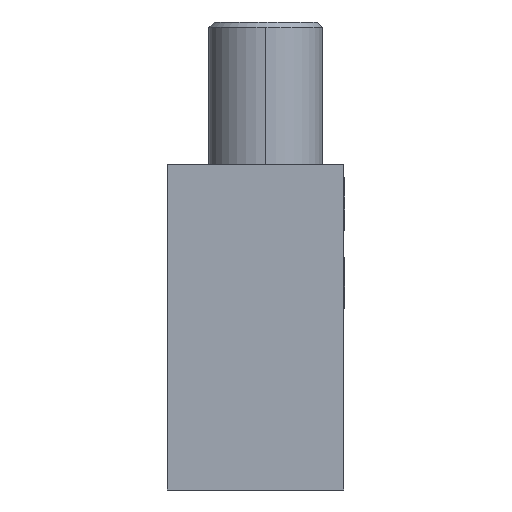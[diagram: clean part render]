
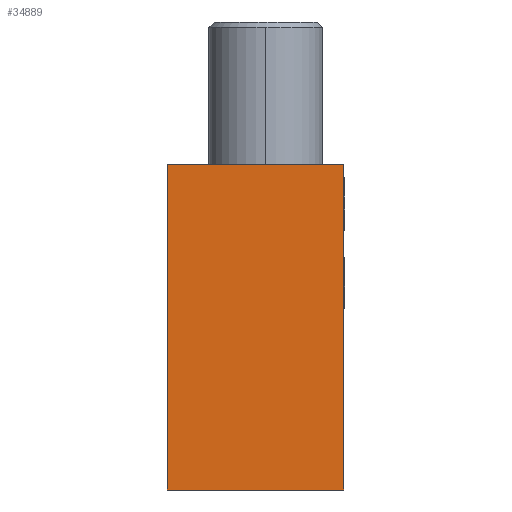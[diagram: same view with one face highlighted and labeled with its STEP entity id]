
A CAD part, left-side view. The second image highlights one B-rep face of the part: STEP entity #34889.
In plain terms, the highlighted planar face has unit normal (-1, 0, 0).
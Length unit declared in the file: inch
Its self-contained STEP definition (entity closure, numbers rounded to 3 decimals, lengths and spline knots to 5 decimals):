
#3383 = EDGE_CURVE ( 'NONE', #50074, #32662, #12827, .T. ) ;
#5628 = VERTEX_POINT ( 'NONE', #50935 ) ;
#6046 = DIRECTION ( 'NONE',  ( -1., 0., 0. ) ) ;
#6099 = DIRECTION ( 'NONE',  ( 0., -1., 0. ) ) ;
#6985 = ORIENTED_EDGE ( 'NONE', *, *, #26107, .T. ) ;
#7084 = ORIENTED_EDGE ( 'NONE', *, *, #29799, .F. ) ;
#7110 = VECTOR ( 'NONE', #25134, 39.37008 ) ;
#12827 = LINE ( 'NONE', #21377, #7110 ) ;
#15489 = VECTOR ( 'NONE', #6099, 39.37008 ) ;
#20315 = EDGE_LOOP ( 'NONE', ( #6985, #39926, #7084, #39316 ) ) ;
#21377 = CARTESIAN_POINT ( 'NONE',  ( -0.975, 0.0525, 0.015 ) ) ;
#22458 = DIRECTION ( 'NONE',  ( 0., 0., -1. ) ) ;
#23497 = FACE_OUTER_BOUND ( 'NONE', #20315, .T. ) ;
#23751 = AXIS2_PLACEMENT_3D ( 'NONE', #30509, #6046, #22458 ) ;
#25134 = DIRECTION ( 'NONE',  ( 0., 1., 0. ) ) ;
#25180 = CARTESIAN_POINT ( 'NONE',  ( -0.975, 0.0675, -0.225 ) ) ;
#26107 = EDGE_CURVE ( 'NONE', #5628, #50074, #48521, .T. ) ;
#27655 = VECTOR ( 'NONE', #39897, 39.37008 ) ;
#29799 = EDGE_CURVE ( 'NONE', #51983, #32662, #33280, .T. ) ;
#29842 = EDGE_CURVE ( 'NONE', #51983, #5628, #34321, .T. ) ;
#30509 = CARTESIAN_POINT ( 'NONE',  ( -0.975, 0.0525, -0.1 ) ) ;
#32288 = CARTESIAN_POINT ( 'NONE',  ( -0.975, 0.0675, 0.015 ) ) ;
#32662 = VERTEX_POINT ( 'NONE', #32288 ) ;
#33280 = LINE ( 'NONE', #25180, #48122 ) ;
#34159 = CARTESIAN_POINT ( 'NONE',  ( -0.975, -0.0625, 0.015 ) ) ;
#34321 = LINE ( 'NONE', #41860, #15489 ) ;
#34889 = ADVANCED_FACE ( 'NONE', ( #23497 ), #42861, .T. ) ;
#39316 = ORIENTED_EDGE ( 'NONE', *, *, #29842, .T. ) ;
#39897 = DIRECTION ( 'NONE',  ( 0., 0., 1. ) ) ;
#39926 = ORIENTED_EDGE ( 'NONE', *, *, #3383, .T. ) ;
#40178 = CARTESIAN_POINT ( 'NONE',  ( -0.975, -0.0625, -0.1 ) ) ;
#41616 = DIRECTION ( 'NONE',  ( 0., 0., 1. ) ) ;
#41860 = CARTESIAN_POINT ( 'NONE',  ( -0.975, -0.0625, -0.225 ) ) ;
#42214 = CARTESIAN_POINT ( 'NONE',  ( -0.975, 0.0675, -0.225 ) ) ;
#42861 = PLANE ( 'NONE',  #23751 ) ;
#48122 = VECTOR ( 'NONE', #41616, 39.37008 ) ;
#48521 = LINE ( 'NONE', #40178, #27655 ) ;
#50074 = VERTEX_POINT ( 'NONE', #34159 ) ;
#50935 = CARTESIAN_POINT ( 'NONE',  ( -0.975, -0.0625, -0.225 ) ) ;
#51983 = VERTEX_POINT ( 'NONE', #42214 ) ;
